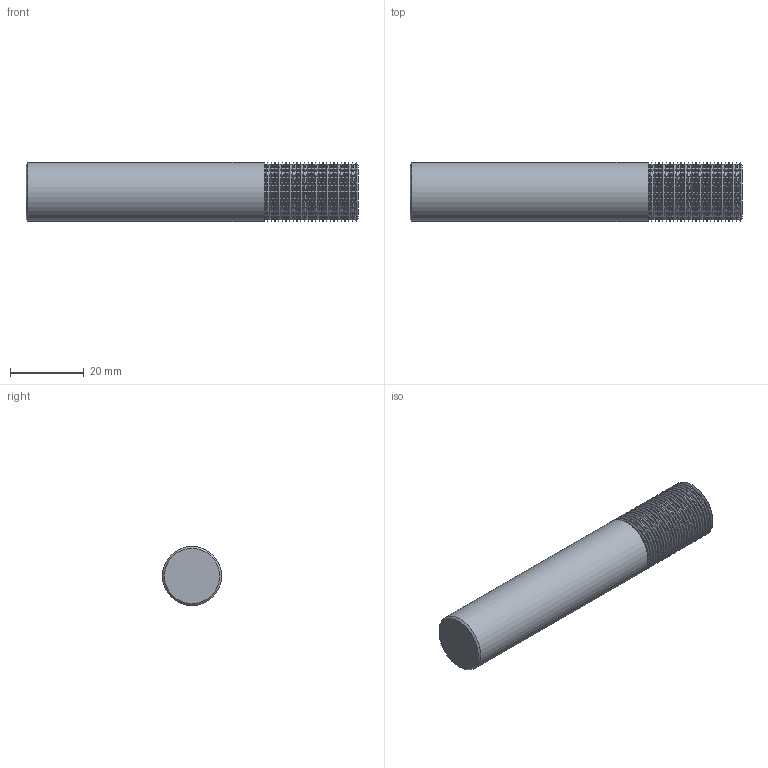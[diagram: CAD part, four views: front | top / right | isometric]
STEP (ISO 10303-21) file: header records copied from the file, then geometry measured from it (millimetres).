
FILE_DESCRIPTION(/* description */ (''),/* implementation_level */ '2;1');
FILE_NAME(/* name */ '00035620-TDM',/* time_stamp */ '2024-02-13T13:15:22+01:00',/* author */ (''),/* organization */ (''),/* preprocessor_version */ 'ST-DEVELOPER v16.5',/* originating_system */ 'HiCAD 2017 2201.0 Build 268',/* authorisation */ '');
FILE_SCHEMA (('AUTOMOTIVE_DESIGN { 1 0 10303 214 1 1 1 1 }'));
Length unit declared in the file: millimetre
Products named in the file (3): Root; ROTATIONSTEIL_1
Assembly tree (2 placements, depth 3):
  Root
    ROTATIONSTEIL_1
      ROTATIONSTEIL_1
Bounding box: 90 x 16 x 16 mm (x, y, z)
Volume: 17652.4 mm3; surface area: 5894.8 mm2
Topology: 2 solids, 2 shells, 158 faces, 312 edges, 158 vertices
Faces by surface type: cone 52, cylinder 52, torus 50, plane 4
Full cylindrical faces by diameter (mm): 14.882 x26, 15.95 x25, 16 x1
Entity records: 4764 total; most frequent: DIRECTION 636, CARTESIAN_POINT 474, AXIS2_PLACEMENT_3D 318, PRESENTATION_STYLE_ASSIGNMENT 314, COLOUR_RGB 314, DRAUGHTING_PRE_DEFINED_CURVE_FONT 312, CURVE_STYLE 312, OVER_RIDING_STYLED_ITEM 312
